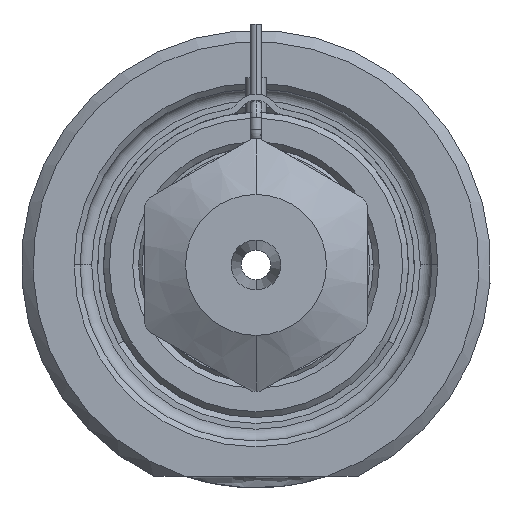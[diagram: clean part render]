
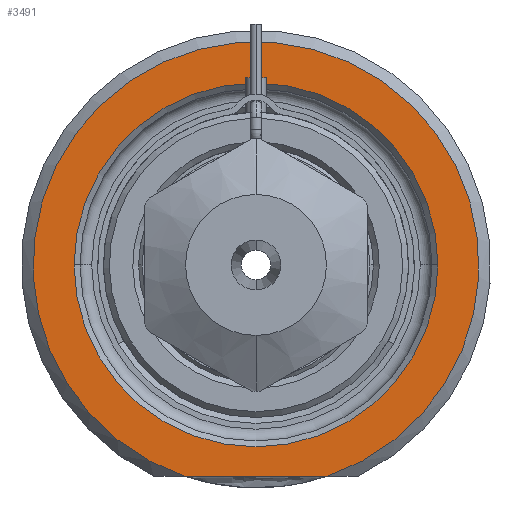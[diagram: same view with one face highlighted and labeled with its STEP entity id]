
A CAD part, front view. The second image highlights one B-rep face of the part: STEP entity #3491.
In plain terms, the highlighted planar face has unit normal (0, -1, 0).
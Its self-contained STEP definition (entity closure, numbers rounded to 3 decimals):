
#1=DIRECTION('',(1.,0.,0.));
#2=VECTOR('',#1,12.166);
#3=CARTESIAN_POINT('',(-6.083,0.,-18.));
#4=LINE('',#3,#2);
#5=CARTESIAN_POINT('',(0.,0.,0.));
#6=DIRECTION('',(0.,1.,0.));
#7=DIRECTION('',(-1.,0.,0.));
#8=AXIS2_PLACEMENT_3D('',#5,#6,#7);
#10=CARTESIAN_POINT('',(0.,0.,0.));
#11=DIRECTION('',(0.,1.,0.));
#12=DIRECTION('',(1.,0.,0.));
#13=AXIS2_PLACEMENT_3D('',#10,#11,#12);
#264=CARTESIAN_POINT('',(0.,0.,0.));
#265=DIRECTION('',(0.,-1.,0.));
#266=DIRECTION('',(0.32,0.,-0.947));
#267=AXIS2_PLACEMENT_3D('',#264,#265,#266);
#2934=CARTESIAN_POINT('',(-15.5,0.,0.));
#2935=CARTESIAN_POINT('',(15.5,0.,0.));
#2936=VERTEX_POINT('',#2934);
#2937=VERTEX_POINT('',#2935);
#2992=CARTESIAN_POINT('',(-6.083,0.,-18.));
#2993=CARTESIAN_POINT('',(6.083,0.,-18.));
#2994=VERTEX_POINT('',#2992);
#2995=VERTEX_POINT('',#2993);
#3474=CARTESIAN_POINT('',(0.,0.,0.));
#3475=DIRECTION('',(0.,-1.,0.));
#3476=DIRECTION('',(1.,0.,0.));
#3477=AXIS2_PLACEMENT_3D('',#3474,#3475,#3476);
#3478=PLANE('',#3477);
#3480=ORIENTED_EDGE('',*,*,#3479,.F.);
#3482=ORIENTED_EDGE('',*,*,#3481,.F.);
#3483=EDGE_LOOP('',(#3480,#3482));
#3484=FACE_OUTER_BOUND('',#3483,.F.);
#3486=ORIENTED_EDGE('',*,*,#3485,.F.);
#3488=ORIENTED_EDGE('',*,*,#3487,.F.);
#3489=EDGE_LOOP('',(#3486,#3488));
#3490=FACE_BOUND('',#3489,.F.);
#3491=ADVANCED_FACE('',(#3484,#3490),#3478,.T.);
#9=CIRCLE('',#8,15.5);
#14=CIRCLE('',#13,15.5);
#268=CIRCLE('',#267,19.);
#3479=EDGE_CURVE('',#2994,#2995,#4,.T.);
#3481=EDGE_CURVE('',#2995,#2994,#268,.T.);
#3485=EDGE_CURVE('',#2936,#2937,#9,.T.);
#3487=EDGE_CURVE('',#2937,#2936,#14,.T.);
